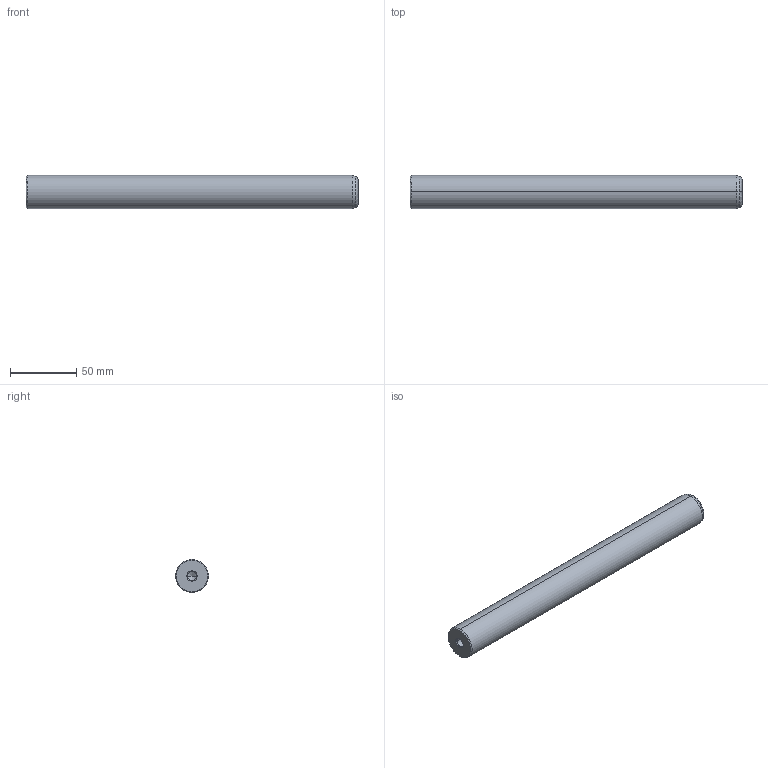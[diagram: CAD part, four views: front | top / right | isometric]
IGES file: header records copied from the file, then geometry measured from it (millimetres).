
Start section: START RECORD GO HERE.
Global section: file name: 720-25x250.igs; native system: DASSAULT SYSTEMES CATIA V5 R20 - www.3ds.com; preprocessor: CATIA Version 5 Release 20 ; author: Utente; organization: NB04-ASUS; date: 20210101.134018; units: millimetre
Bounding box: 250 x 25 x 25 mm (x, y, z)
Surface area: 21445.6 mm2 (no closed solid volume)
Topology: 0 solids, 0 shells, 22 faces, 108 edges, 104 vertices
Faces by surface type: revolution 20, plane 2
